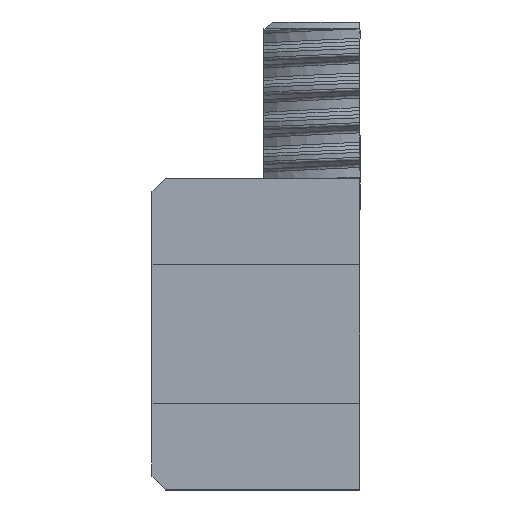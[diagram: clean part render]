
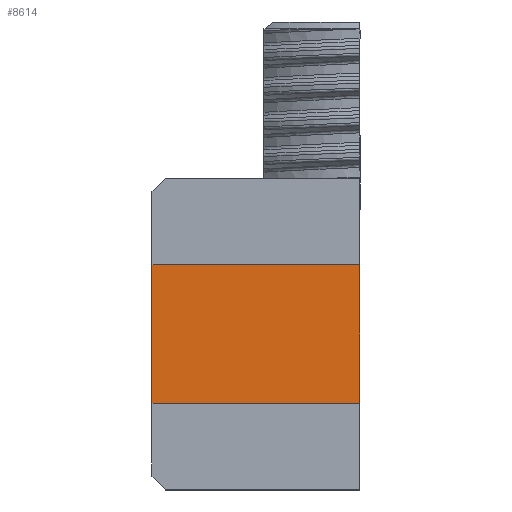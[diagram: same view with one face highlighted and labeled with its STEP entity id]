
A CAD part, left-side view. The second image highlights one B-rep face of the part: STEP entity #8614.
In plain terms, the highlighted planar face has unit normal (-1, 0, 0).
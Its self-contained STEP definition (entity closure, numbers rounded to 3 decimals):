
#5 = VERTEX_POINT ( 'NONE', #31560 ) ;
#905 = DIRECTION ( 'NONE',  ( 0., 1., 0. ) ) ;
#1859 = VECTOR ( 'NONE', #38168, 1000. ) ;
#4292 = AXIS2_PLACEMENT_3D ( 'NONE', #20100, #31864, #13904 ) ;
#4400 = CARTESIAN_POINT ( 'NONE',  ( -52., 25., -15.16 ) ) ;
#5031 = PLANE ( 'NONE',  #4292 ) ;
#5349 = ORIENTED_EDGE ( 'NONE', *, *, #14836, .T. ) ;
#7761 = EDGE_CURVE ( 'NONE', #10997, #5, #37981, .T. ) ;
#8412 = CARTESIAN_POINT ( 'NONE',  ( -52., 25., -15.16 ) ) ;
#8614 = ADVANCED_FACE ( 'NONE', ( #20291 ), #5031, .F. ) ;
#9104 = EDGE_CURVE ( 'NONE', #15080, #31742, #27535, .T. ) ;
#9154 = ORIENTED_EDGE ( 'NONE', *, *, #9104, .F. ) ;
#10997 = VERTEX_POINT ( 'NONE', #25012 ) ;
#11557 = CARTESIAN_POINT ( 'NONE',  ( -52., -25., 15.16 ) ) ;
#12126 = LINE ( 'NONE', #22343, #27126 ) ;
#13785 = EDGE_CURVE ( 'NONE', #15080, #10997, #12126, .T. ) ;
#13904 = DIRECTION ( 'NONE',  ( 0., 0., -1. ) ) ;
#14752 = EDGE_LOOP ( 'NONE', ( #19460, #21204, #5349, #9154 ) ) ;
#14836 = EDGE_CURVE ( 'NONE', #5, #31742, #30643, .T. ) ;
#15080 = VERTEX_POINT ( 'NONE', #15978 ) ;
#15978 = CARTESIAN_POINT ( 'NONE',  ( -52., -5., -15.16 ) ) ;
#16672 = VECTOR ( 'NONE', #33731, 1000. ) ;
#18664 = CARTESIAN_POINT ( 'NONE',  ( -52., -25., -15.16 ) ) ;
#19460 = ORIENTED_EDGE ( 'NONE', *, *, #13785, .T. ) ;
#20100 = CARTESIAN_POINT ( 'NONE',  ( -52., -25., -15.16 ) ) ;
#20291 = FACE_OUTER_BOUND ( 'NONE', #14752, .T. ) ;
#21204 = ORIENTED_EDGE ( 'NONE', *, *, #7761, .T. ) ;
#22343 = CARTESIAN_POINT ( 'NONE',  ( -52., -5., -22.51 ) ) ;
#22833 = VECTOR ( 'NONE', #905, 1000. ) ;
#25012 = CARTESIAN_POINT ( 'NONE',  ( -52., -5., 15.16 ) ) ;
#27126 = VECTOR ( 'NONE', #34102, 1000. ) ;
#27535 = LINE ( 'NONE', #18664, #22833 ) ;
#30643 = LINE ( 'NONE', #4400, #16672 ) ;
#31560 = CARTESIAN_POINT ( 'NONE',  ( -52., 25., 15.16 ) ) ;
#31742 = VERTEX_POINT ( 'NONE', #8412 ) ;
#31864 = DIRECTION ( 'NONE',  ( 1., 0., 0. ) ) ;
#33731 = DIRECTION ( 'NONE',  ( 0., 0., -1. ) ) ;
#34102 = DIRECTION ( 'NONE',  ( 0., 0., 1. ) ) ;
#37981 = LINE ( 'NONE', #11557, #1859 ) ;
#38168 = DIRECTION ( 'NONE',  ( 0., 1., 0. ) ) ;
